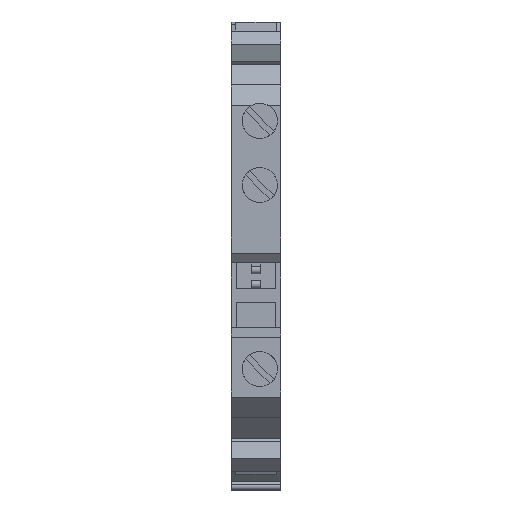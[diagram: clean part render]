
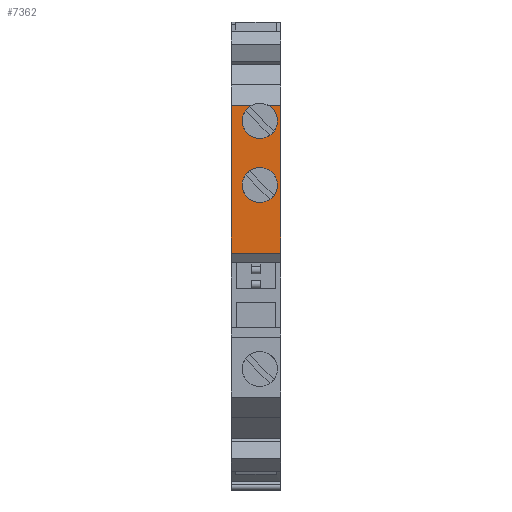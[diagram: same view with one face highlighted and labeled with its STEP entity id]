
A CAD part, top view. The second image highlights one B-rep face of the part: STEP entity #7362.
In plain terms, the highlighted planar face has unit normal (0, 0, 1).
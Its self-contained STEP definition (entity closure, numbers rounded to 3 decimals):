
#376=CARTESIAN_POINT('',(-0.,29.2,46.85));
#377=VERTEX_POINT('',#376);
#384=CARTESIAN_POINT('',(-0.,47.4,46.85));
#385=VERTEX_POINT('',#384);
#386=CARTESIAN_POINT('',(-0.,47.4,46.85));
#387=DIRECTION('',(0.,-1.,0.));
#388=VECTOR('',#387,18.2);
#389=LINE('',#386,#388);
#390=EDGE_CURVE('',#385,#377,#389,.T.);
#1299=CARTESIAN_POINT('',(6.15,47.4,46.85));
#1300=VERTEX_POINT('',#1299);
#1307=CARTESIAN_POINT('',(6.15,29.2,46.85));
#1308=VERTEX_POINT('',#1307);
#1309=CARTESIAN_POINT('',(6.15,47.4,46.85));
#1310=DIRECTION('',(0.,-1.,0.));
#1311=VECTOR('',#1310,18.2);
#1312=LINE('',#1309,#1311);
#1313=EDGE_CURVE('',#1300,#1308,#1312,.T.);
#2097=CARTESIAN_POINT('',(3.55,43.35,46.85));
#2098=VERTEX_POINT('',#2097);
#2181=CARTESIAN_POINT('',(4.652,47.4,46.85));
#2182=VERTEX_POINT('',#2181);
#2183=CARTESIAN_POINT('',(3.55,45.525,46.85));
#2184=DIRECTION('',(-0.,-0.,-1.));
#2185=DIRECTION('',(-0.,1.,-0.));
#2186=AXIS2_PLACEMENT_3D('',#2183,#2184,#2185);
#2187=CIRCLE('',#2186,2.175);
#2188=EDGE_CURVE('',#2182,#2098,#2187,.T.);
#2198=CARTESIAN_POINT('',(2.448,47.4,46.85));
#2199=VERTEX_POINT('',#2198);
#2206=CARTESIAN_POINT('',(3.55,45.525,46.85));
#2207=DIRECTION('',(-0.,-0.,-1.));
#2208=DIRECTION('',(-0.,1.,-0.));
#2209=AXIS2_PLACEMENT_3D('',#2206,#2207,#2208);
#2210=CIRCLE('',#2209,2.175);
#2211=EDGE_CURVE('',#2098,#2199,#2210,.T.);
#3500=CARTESIAN_POINT('',(6.15,47.4,46.85));
#3501=DIRECTION('',(-1.,-0.,0.));
#3502=VECTOR('',#3501,1.498);
#3503=LINE('',#3500,#3502);
#3504=EDGE_CURVE('',#1300,#2182,#3503,.T.);
#3514=CARTESIAN_POINT('',(-0.,47.4,46.85));
#3515=DIRECTION('',(1.,0.,0.));
#3516=VECTOR('',#3515,2.448);
#3517=LINE('',#3514,#3516);
#3518=EDGE_CURVE('',#385,#2199,#3517,.T.);
#7323=CARTESIAN_POINT('',(6.15,29.55,46.85));
#7324=DIRECTION('',(-0.,-0.,-1.));
#7325=DIRECTION('',(1.,0.,-0.));
#7326=AXIS2_PLACEMENT_3D('',#7323,#7324,#7325);
#7327=PLANE('',#7326);
#7328=CARTESIAN_POINT('',(3.55,39.775,46.85));
#7329=VERTEX_POINT('',#7328);
#7330=CARTESIAN_POINT('',(3.55,35.425,46.85));
#7331=VERTEX_POINT('',#7330);
#7332=CARTESIAN_POINT('',(3.55,37.6,46.85));
#7333=DIRECTION('',(-0.,-0.,-1.));
#7334=DIRECTION('',(-0.,1.,-0.));
#7335=AXIS2_PLACEMENT_3D('',#7332,#7333,#7334);
#7336=CIRCLE('',#7335,2.175);
#7337=EDGE_CURVE('',#7329,#7331,#7336,.T.);
#7338=ORIENTED_EDGE('',*,*,#7337,.T.);
#7339=CARTESIAN_POINT('',(3.55,37.6,46.85));
#7340=DIRECTION('',(-0.,-0.,-1.));
#7341=DIRECTION('',(-0.,1.,-0.));
#7342=AXIS2_PLACEMENT_3D('',#7339,#7340,#7341);
#7343=CIRCLE('',#7342,2.175);
#7344=EDGE_CURVE('',#7331,#7329,#7343,.T.);
#7345=ORIENTED_EDGE('',*,*,#7344,.T.);
#7346=EDGE_LOOP('',(#7338,#7345));
#7347=FACE_BOUND('',#7346,.T.);
#7348=ORIENTED_EDGE('',*,*,#2188,.T.);
#7349=ORIENTED_EDGE('',*,*,#2211,.T.);
#7350=ORIENTED_EDGE('',*,*,#3518,.F.);
#7351=ORIENTED_EDGE('',*,*,#390,.T.);
#7352=CARTESIAN_POINT('',(-0.,29.2,46.85));
#7353=DIRECTION('',(1.,0.,-0.));
#7354=VECTOR('',#7353,6.15);
#7355=LINE('',#7352,#7354);
#7356=EDGE_CURVE('',#377,#1308,#7355,.T.);
#7357=ORIENTED_EDGE('',*,*,#7356,.T.);
#7358=ORIENTED_EDGE('',*,*,#1313,.F.);
#7359=ORIENTED_EDGE('',*,*,#3504,.T.);
#7360=EDGE_LOOP('',(#7348,#7349,#7350,#7351,#7357,#7358,#7359));
#7361=FACE_BOUND('',#7360,.T.);
#7362=ADVANCED_FACE('',(#7347,#7361),#7327,.F.);
